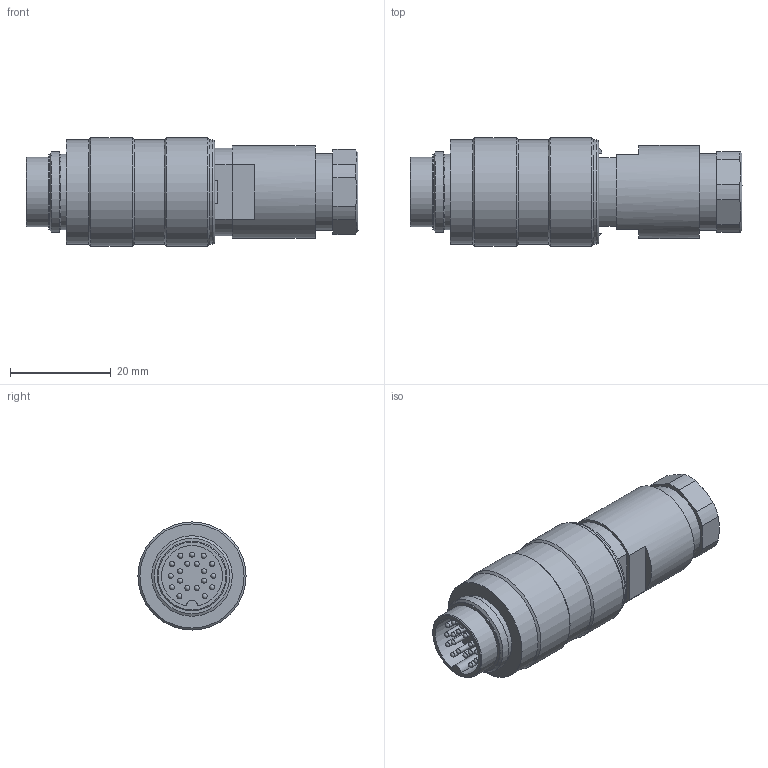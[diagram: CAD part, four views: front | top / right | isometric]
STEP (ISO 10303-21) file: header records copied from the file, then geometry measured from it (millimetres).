
FILE_DESCRIPTION(/* description */ (''),/* implementation_level */ '2;1');
FILE_NAME(/* name */ '09_0461_70_19_001_00.stp',/* time_stamp */ '2012-11-20T16:45:19+01:00',/* author */ (''),/* organization */ (''),/* preprocessor_version */ 'ST-DEVELOPER v11',/* originating_system */ 'SIEMENS UGS NX 6.0',/* authorisation */ '');
FILE_SCHEMA (('AUTOMOTIVE_DESIGN { 1 0 10303 214 1 1 1 1 }'));
Length unit declared in the file: millimetre
Products named in the file (1): kbor2000sl62
Bounding box: 66 x 21.5 x 21.5 mm (x, y, z)
Volume: 17876.1 mm3; surface area: 5324.6 mm2
Topology: 1 solids, 1 shells, 99 faces, 268 edges, 161 vertices
Faces by surface type: cylinder 40, plane 31, sphere 19, cone 8, torus 1
Full cylindrical faces by diameter (mm): 1 x19, 13.8 x1, 15 x2, 15.2 x1, 16 x1, 18.5 x1, 20.7 x3, 21.5 x2
Entity records: 2386 total; most frequent: DIRECTION 432, CARTESIAN_POINT 420, ORIENTED_EDGE 304, AXIS2_PLACEMENT_3D 186, EDGE_LOOP 166, EDGE_CURVE 152, VERTEX_POINT 122, FACE_BOUND 114
